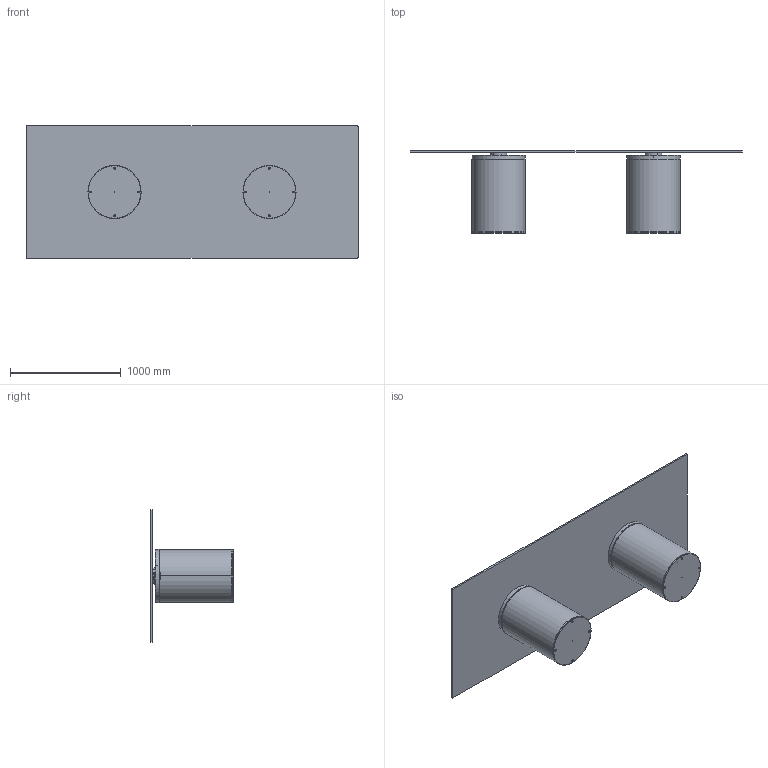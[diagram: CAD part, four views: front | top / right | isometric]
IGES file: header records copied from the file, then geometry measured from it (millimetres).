
Start section: SolidWorks IGES file using analytic representation for surfaces
Global section: file name: Y:\eforma\TECNICO\SOLIDWORKS\E-FORMA\1-TAVOLI\CILINDRO\02 parts\CI24G.IGS; native system: SolidWorks 2022; preprocessor: SolidWorks 2022; author: eforma.tech; date: 240808.085157; units: millimetre
Bounding box: 3000 x 747 x 1200 mm (x, y, z)
Volume: 76766804.6 mm3; surface area: 13851461.7 mm2
Topology: 37 solids, 37 shells, 956 faces, 2252 edges, 1342 vertices
Faces by surface type: revolution 604, plane 334, bspline 18
